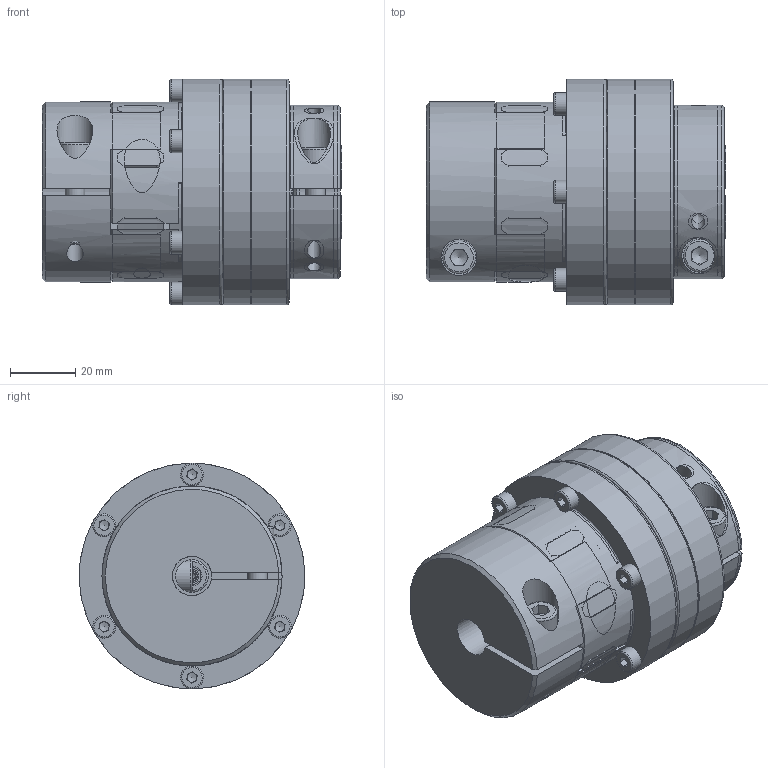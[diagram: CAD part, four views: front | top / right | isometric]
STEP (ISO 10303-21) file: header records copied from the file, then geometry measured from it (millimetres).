
FILE_DESCRIPTION( ( 'Unknown' ), '1' );
FILE_NAME( 'F:/JAKOB-STEP+IGES-Dateien/STEP-Dateien/SKB-EK/SKB-EK 30.stp', 'Unknown', ( 'Unknown' ), ( 'Unknown' ), 'XStep 1.0', 'Unknown', ' ' );
FILE_SCHEMA( ( 'CONFIG_CONTROL_DESIGN' ) );
Length unit declared in the file: millimetre
Products named in the file (11): Assem1; SKB 30; 23917252; KT102258; KT102577; KT101732; KT100050; Elastomerteil 2; kt101602; KT102316
Bounding box: 91.5 x 69 x 69 mm (x, y, z)
Surface area: 198490 mm2
Topology: 29 solids, 29 shells, 1280 faces, 3486 edges, 2229 vertices
Faces by surface type: plane 448, cylinder 441, cone 211, torus 144, sphere 36
Full cylindrical faces by diameter (mm): 2 x6, 3.3 x21, 4 x26, 4.3 x12, 5 x14, 6 x5, 6.5 x5, 7 x7, 10 x8, 11 x5, 12.5 x2, 27 x4, 28.6 x3, 29.8 x3, 30 x6, 35 x5, 36 x3, 38.2 x6, 38.893 x3, 39.293 x3, 47.1 x9, 54.2 x2, 55 x8, 55.5 x6, 58 x3, 59 x3, 66 x3, 69 x5
Entity records: 16892 total; most frequent: CARTESIAN_POINT 4717, DIRECTION 2462, ORIENTED_EDGE 2324, EDGE_CURVE 1162, AXIS2_PLACEMENT_3D 1060, VERTEX_POINT 803, EDGE_LOOP 682, CIRCLE 560
